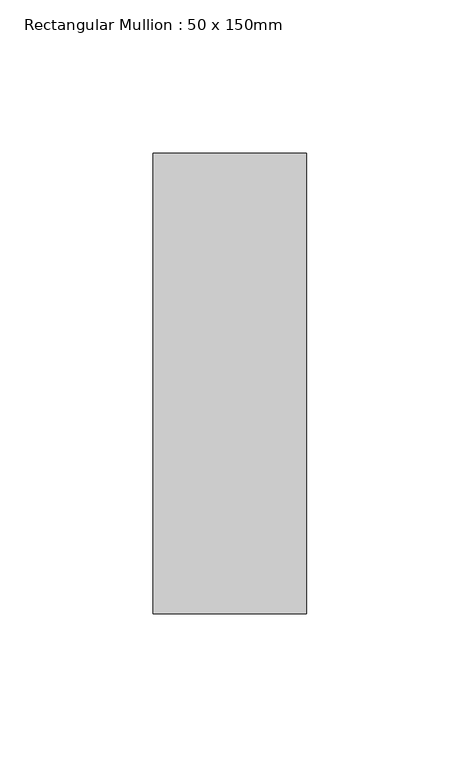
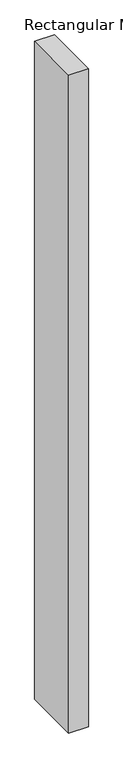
"""IFC4 building model written with IfcOpenShell, lengths in millimetres: member geometry, Rectangular Mullion : 50 x 150mm."""

from ifc_helpers import new_model, si_unit, frame, origin, place, context, project, spatial, polyline, outline, extrude, source, transform, mapped, element, save


def rectangular_mullion_50_x_150mm_b13b2109(model_context):
    return source(origin(), model_context, "Body", "SweptSolid", [
        extrude(outline(polyline([(0.0, 0.0), (0.0487918, -50.0), (-1770.1904857, -50.0), (-1770.1009451, 0.0), (0.0, 0.0)])), frame((0.0, -75.0, 0.0), z_axis=(0.0, 1.0, 0.0), x_axis=(0.0, 0.0, 1.0)), (0.0, 0.0, 1.0), 150.0),
    ])


if __name__ == "__main__":
    model = new_model("IFC4")
    model_context = context("Model", 3, world=origin())
    ifc_project = project(units=[si_unit("LENGTHUNIT", "METRE", prefix="MILLI")], contexts=[model_context])
    site = spatial("IfcSite", under=ifc_project)
    building = spatial("IfcBuilding", under=site)
    placement = place(None, origin())
    rectangular_mullion_50_x_150mm_shape = rectangular_mullion_50_x_150mm_b13b2109(model_context)
    element("IfcMember", 1, ObjectType="Rectangular Mullion : 50 x 150mm", at=placement, inside=building, context=model_context, shape_type="MappedRepresentation", body=[
        mapped(rectangular_mullion_50_x_150mm_shape, transform((0.0, 0.0, 0.0), x_axis=(1.0, 0.0, 0.0), y_axis=(0.0, 1.0, 0.0), z_axis=(0.0, 0.0, 1.0))),
    ])
    save(model, "model.ifc")
